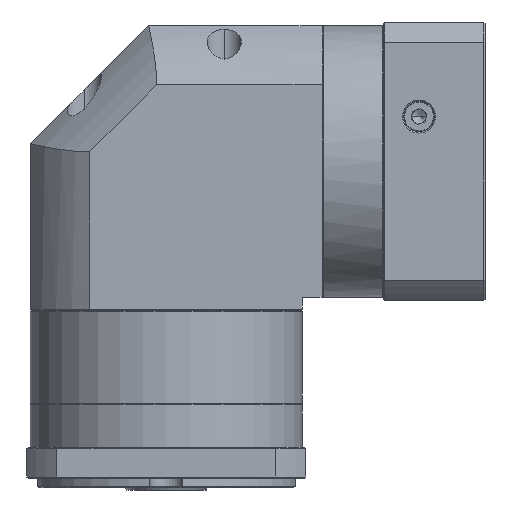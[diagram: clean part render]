
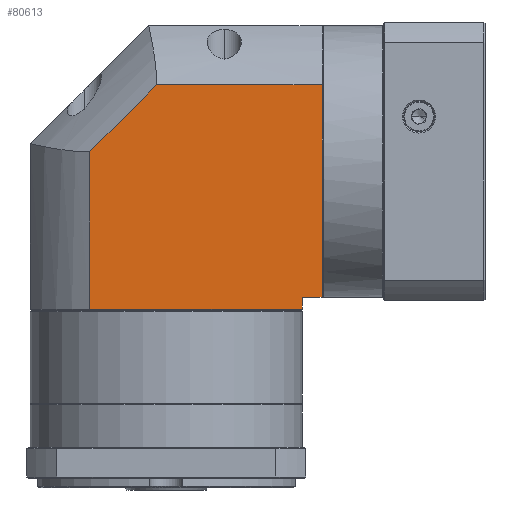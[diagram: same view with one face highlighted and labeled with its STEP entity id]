
A CAD part, front view. The second image highlights one B-rep face of the part: STEP entity #80613.
In plain terms, the highlighted planar face has unit normal (0, -1, 0).
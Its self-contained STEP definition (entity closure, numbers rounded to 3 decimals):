
#1512 = ORIENTED_EDGE ( 'NONE', *, *, #38454, .F. ) ;
#2655 = CARTESIAN_POINT ( 'NONE',  ( 104.709, -5.231, -50.354 ) ) ;
#3252 = VERTEX_POINT ( 'NONE', #15152 ) ;
#5349 = CARTESIAN_POINT ( 'NONE',  ( 104.709, -5.231, -61.854 ) ) ;
#7854 = CARTESIAN_POINT ( 'NONE',  ( 14.809, -5.231, -61.854 ) ) ;
#8177 = VECTOR ( 'NONE', #117311, 1000. ) ;
#15152 = CARTESIAN_POINT ( 'NONE',  ( 113.109, -5.231, -50.354 ) ) ;
#15536 = EDGE_LOOP ( 'NONE', ( #64976, #100509, #97755, #71125, #30310, #38937, #1512 ) ) ;
#17176 = CARTESIAN_POINT ( 'NONE',  ( 43.147, -5.231, 39.546 ) ) ;
#17528 = DIRECTION ( 'NONE',  ( -1., 0., 0. ) ) ;
#18248 = VECTOR ( 'NONE', #17528, 1000. ) ;
#21007 = VERTEX_POINT ( 'NONE', #2655 ) ;
#22298 = DIRECTION ( 'NONE',  ( 0., 1., 0. ) ) ;
#23157 = DIRECTION ( 'NONE',  ( 1., 0., 0. ) ) ;
#23859 = CARTESIAN_POINT ( 'NONE',  ( 104.709, -5.231, -55.354 ) ) ;
#26419 = VERTEX_POINT ( 'NONE', #120951 ) ;
#30310 = ORIENTED_EDGE ( 'NONE', *, *, #121272, .F. ) ;
#30566 = EDGE_CURVE ( 'NONE', #26419, #3252, #35058, .T. ) ;
#32306 = PLANE ( 'NONE',  #90809 ) ;
#35058 = LINE ( 'NONE', #119637, #73694 ) ;
#38180 = CARTESIAN_POINT ( 'NONE',  ( -10.291, -5.231, 39.546 ) ) ;
#38454 = EDGE_CURVE ( 'NONE', #87643, #105832, #42553, .T. ) ;
#38937 = ORIENTED_EDGE ( 'NONE', *, *, #58569, .F. ) ;
#42553 = LINE ( 'NONE', #118203, #76518 ) ;
#42625 = CARTESIAN_POINT ( 'NONE',  ( -10.291, -5.231, -61.854 ) ) ;
#45239 = VECTOR ( 'NONE', #53877, 1000. ) ;
#45330 = VECTOR ( 'NONE', #50701, 1000. ) ;
#50701 = DIRECTION ( 'NONE',  ( 1., 0., 0. ) ) ;
#53877 = DIRECTION ( 'NONE',  ( 0., 0., -1. ) ) ;
#58569 = EDGE_CURVE ( 'NONE', #105832, #108107, #119684, .T. ) ;
#58662 = EDGE_CURVE ( 'NONE', #79218, #26419, #110332, .T. ) ;
#64976 = ORIENTED_EDGE ( 'NONE', *, *, #82068, .F. ) ;
#66005 = CARTESIAN_POINT ( 'NONE',  ( -10.291, -5.231, -50.354 ) ) ;
#71125 = ORIENTED_EDGE ( 'NONE', *, *, #58662, .F. ) ;
#73694 = VECTOR ( 'NONE', #80696, 1000. ) ;
#76518 = VECTOR ( 'NONE', #77978, 1000. ) ;
#77978 = DIRECTION ( 'NONE',  ( -1., 0., 0. ) ) ;
#79218 = VERTEX_POINT ( 'NONE', #17176 ) ;
#80613 = ADVANCED_FACE ( 'NONE', ( #92101 ), #32306, .F. ) ;
#80696 = DIRECTION ( 'NONE',  ( 0., 0., -1. ) ) ;
#82068 = EDGE_CURVE ( 'NONE', #21007, #87643, #100892, .T. ) ;
#83285 = EDGE_CURVE ( 'NONE', #3252, #21007, #103374, .T. ) ;
#85849 = DIRECTION ( 'NONE',  ( 0.707, 0., 0.707 ) ) ;
#87643 = VERTEX_POINT ( 'NONE', #23859 ) ;
#90809 = AXIS2_PLACEMENT_3D ( 'NONE', #42625, #22298, #23157 ) ;
#92101 = FACE_OUTER_BOUND ( 'NONE', #15536, .T. ) ;
#96593 = LINE ( 'NONE', #106636, #105877 ) ;
#97755 = ORIENTED_EDGE ( 'NONE', *, *, #30566, .F. ) ;
#100509 = ORIENTED_EDGE ( 'NONE', *, *, #83285, .F. ) ;
#100892 = LINE ( 'NONE', #5349, #45239 ) ;
#103111 = CARTESIAN_POINT ( 'NONE',  ( 14.809, -5.231, 11.208 ) ) ;
#103374 = LINE ( 'NONE', #66005, #18248 ) ;
#105832 = VERTEX_POINT ( 'NONE', #113873 ) ;
#105877 = VECTOR ( 'NONE', #85849, 1000. ) ;
#106636 = CARTESIAN_POINT ( 'NONE',  ( 14.809, -5.231, 11.208 ) ) ;
#108107 = VERTEX_POINT ( 'NONE', #103111 ) ;
#110332 = LINE ( 'NONE', #38180, #45330 ) ;
#113873 = CARTESIAN_POINT ( 'NONE',  ( 14.809, -5.231, -55.354 ) ) ;
#117311 = DIRECTION ( 'NONE',  ( 0., 0., 1. ) ) ;
#118203 = CARTESIAN_POINT ( 'NONE',  ( -10.291, -5.231, -55.354 ) ) ;
#119637 = CARTESIAN_POINT ( 'NONE',  ( 113.109, -5.231, -61.854 ) ) ;
#119684 = LINE ( 'NONE', #7854, #8177 ) ;
#120951 = CARTESIAN_POINT ( 'NONE',  ( 113.109, -5.231, 39.546 ) ) ;
#121272 = EDGE_CURVE ( 'NONE', #108107, #79218, #96593, .T. ) ;
